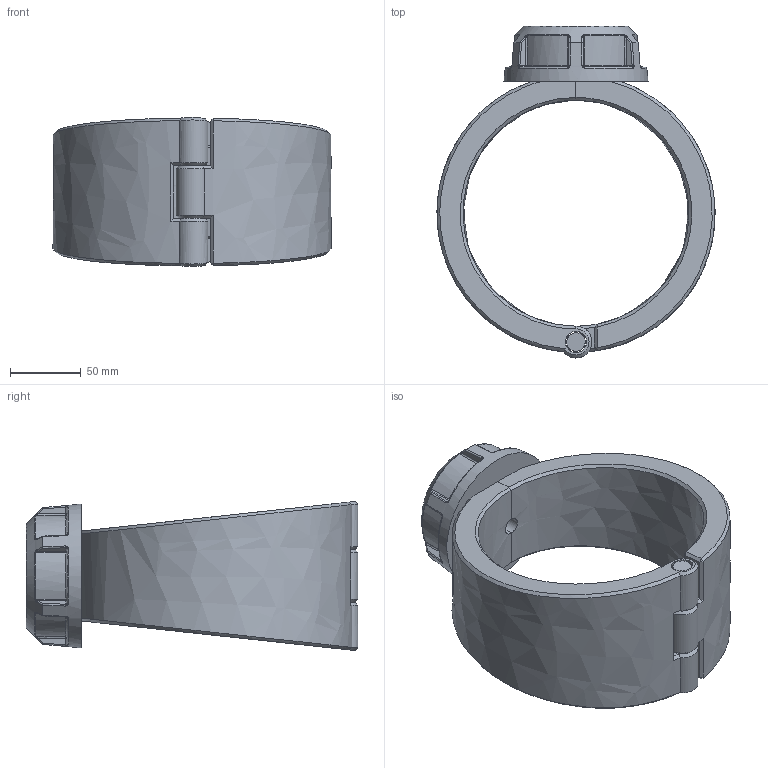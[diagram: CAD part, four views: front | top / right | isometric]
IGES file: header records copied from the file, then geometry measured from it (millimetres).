
Global section: file name: 163000160007; native system: Autodesk Inventor 2019; preprocessor: unknown; author: comp2; date: 20220203.115116; units: millimetre
Bounding box: 196.98 x 235 x 105.57 mm (x, y, z)
Volume: 1081419.7 mm3; surface area: 155381.8 mm2
Topology: 4 solids, 4 shells, 203 faces, 486 edges, 293 vertices
Faces by surface type: bspline 203
